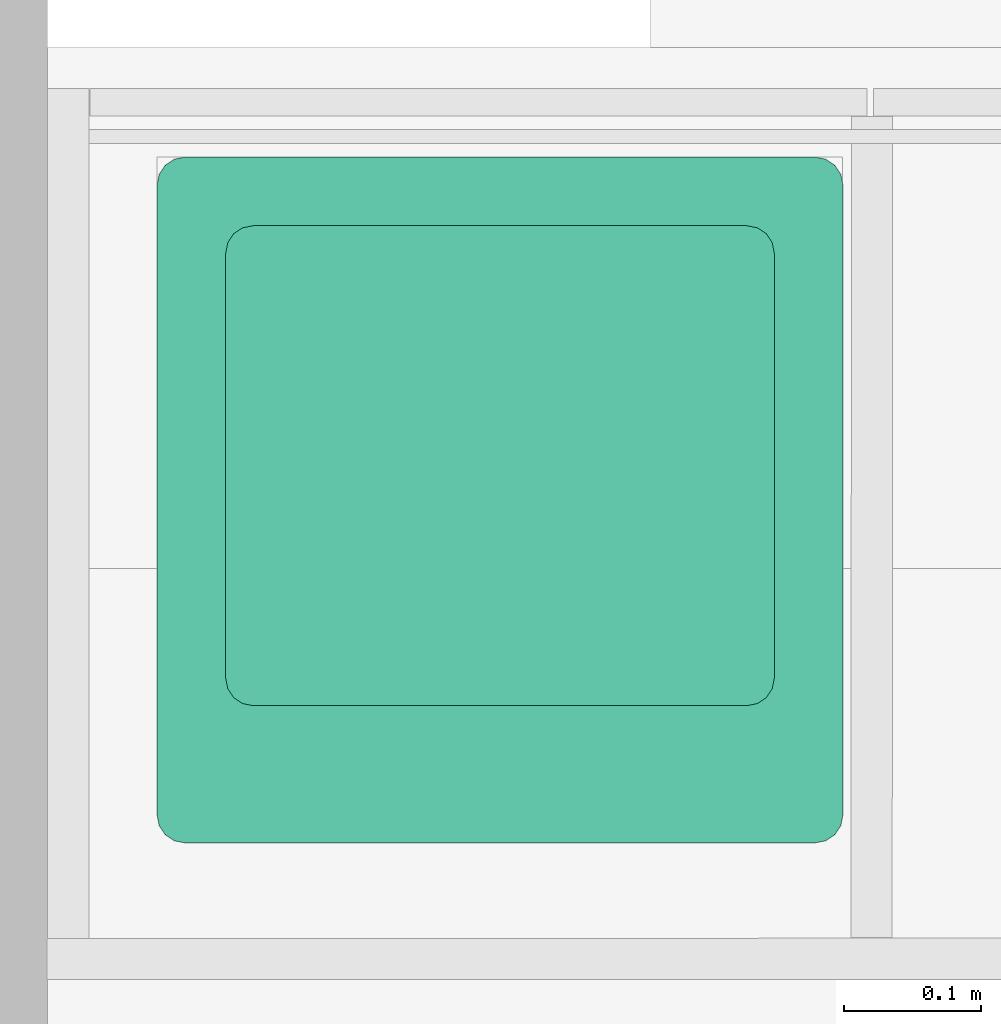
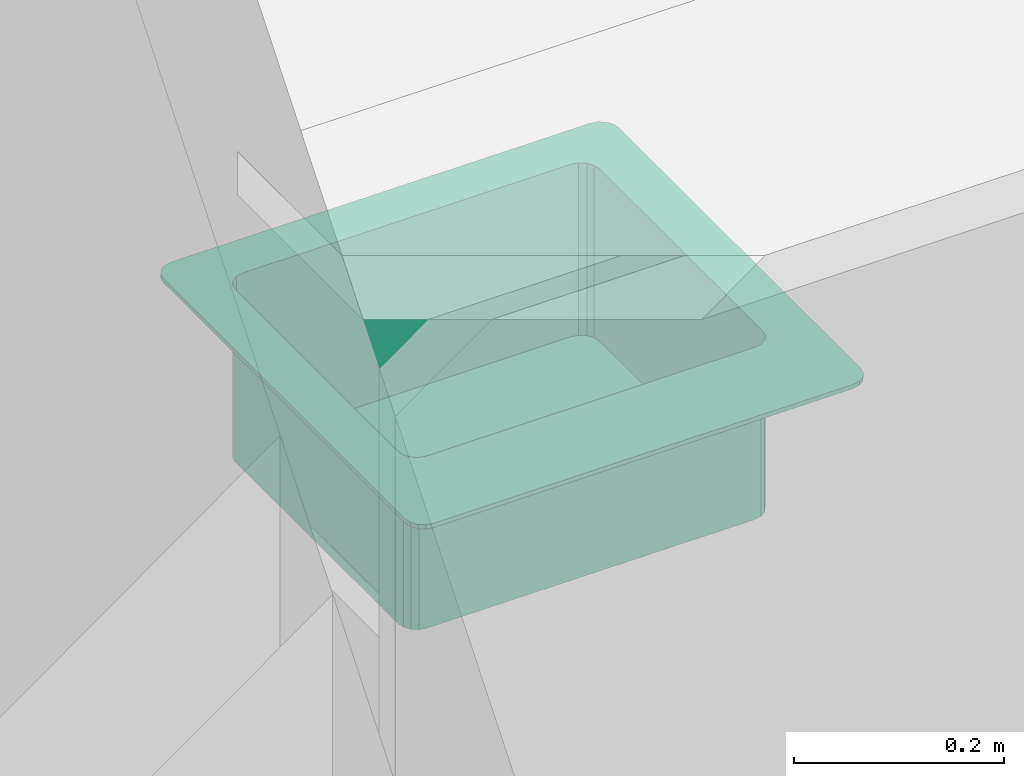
# One storey, part 33 of 34: 1 distribution element.
"""IFC2X3 building model written with IfcOpenShell, lengths in metres."""

from ifc_helpers import new_model, entity, si_unit, converted_unit, derived_unit, money_unit, direction, frame, origin_with_axes, place, context, subcontext, project, spatial, open_shell, faceted_brep, surface_model, type_object, element, save


model = new_model("IFC2X3")

# Units and contexts
model_context = context("Model", 3, precision=1e-05, world=origin_with_axes(), true_north=direction((0.0, 1.0)))
body_context = subcontext(model_context, "Body", "Model", "MODEL_VIEW")
ifc_project = project(units=[si_unit("LENGTHUNIT", "METRE"), si_unit("AREAUNIT", "SQUARE_METRE"), si_unit("VOLUMEUNIT", "CUBIC_METRE"), converted_unit("PLANEANGLEUNIT", "DEGREE", entity("IfcPlaneAngleMeasure", 0.0174532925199), si_unit("PLANEANGLEUNIT", "RADIAN"), dimensions=[0, 0, 0, 0, 0, 0, 0]), money_unit("CHF"), converted_unit("TIMEUNIT", "Year", entity("IfcTimeMeasure", 31556926.0), si_unit("TIMEUNIT", "SECOND"), dimensions=[0, 0, 1, 0, 0, 0, 0]), si_unit("MASSUNIT", "GRAM", prefix="KILO"), si_unit("THERMODYNAMICTEMPERATUREUNIT", "DEGREE_CELSIUS"), si_unit("LUMINOUSINTENSITYUNIT", "LUMEN"), si_unit("ENERGYUNIT", "JOULE", prefix="MEGA"), derived_unit("THERMALCONDUCTANCEUNIT", [(si_unit("POWERUNIT", "WATT"), 1), (si_unit("LENGTHUNIT", "METRE"), -1), (si_unit("THERMODYNAMICTEMPERATUREUNIT", "KELVIN"), -1)]), derived_unit("SPECIFICHEATCAPACITYUNIT", [(si_unit("ENERGYUNIT", "JOULE"), 1), (si_unit("MASSUNIT", "GRAM", prefix="KILO"), -1), (si_unit("THERMODYNAMICTEMPERATUREUNIT", "KELVIN"), -1)]), derived_unit("MASSDENSITYUNIT", [(si_unit("MASSUNIT", "GRAM", prefix="KILO"), 1), (si_unit("VOLUMEUNIT", "CUBIC_METRE"), -1)])], contexts=[model_context])

# Site, building, storey
site_placement = place(None, origin_with_axes())
site = spatial("IfcSite", under=ifc_project, at=site_placement, Name="Site", CompositionType="ELEMENT")
building_placement = place(site_placement, origin_with_axes())
building = spatial("IfcBuilding", under=site, at=building_placement, Name="Bâtiment", CompositionType="ELEMENT")
storey_placement = place(building_placement, origin_with_axes())
storey = spatial("IfcBuildingStorey", under=building, at=storey_placement, Name="RDC", CompositionType="ELEMENT", Elevation=-5.32907e-15)

# Distribution element
distribution_element_type = type_object("IfcDistributionElementType", Name="Evier à double bacs 25")
distribution_element_placement = place(storey_placement, frame((1675.0708958, 185.420009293, 0.37), z_axis=(0.0, 0.0, 1.0), x_axis=(-1.0, 0.0, 0.0)))
element("IfcDistributionElement", 1, at=distribution_element_placement, inside=storey, type_object=distribution_element_type, Name="Protection-003", context=body_context, shape_type="SurfaceModel", body=[
    surface_model("IfcShellBasedSurfaceModel", [(0.25, 0.279, 0.7), (0.244564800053, 0.279715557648, 0.7), (0.244564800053, 0.279715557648, 0.68), (0.25, 0.279, 0.68), (0.2395, 0.281813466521, 0.7), (0.2395, 0.281813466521, 0.68), (0.255435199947, 0.279715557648, 0.7), (0.255435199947, 0.279715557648, 0.68), (0.235150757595, 0.285150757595, 0.7), (0.235150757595, 0.285150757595, 0.68), (0.2605, 0.281813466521, 0.7), (0.2605, 0.281813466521, 0.68), (0.231813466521, 0.2895, 0.7), (0.231813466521, 0.2895, 0.68), (0.264849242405, 0.285150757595, 0.7), (0.264849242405, 0.285150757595, 0.68), (0.229715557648, 0.294564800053, 0.7), (0.229715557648, 0.294564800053, 0.68), (0.268186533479, 0.2895, 0.7), (0.268186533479, 0.2895, 0.68), (0.229, 0.3, 0.7), (0.229, 0.3, 0.68), (0.270284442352, 0.294564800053, 0.7), (0.270284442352, 0.294564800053, 0.68), (0.229715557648, 0.305435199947, 0.7), (0.229715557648, 0.305435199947, 0.68), (0.271, 0.3, 0.7), (0.271, 0.3, 0.68), (0.231813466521, 0.3105, 0.7), (0.231813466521, 0.3105, 0.68), (0.270284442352, 0.305435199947, 0.7), (0.270284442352, 0.305435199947, 0.68), (0.235150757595, 0.314849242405, 0.7), (0.235150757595, 0.314849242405, 0.68), (0.268186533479, 0.3105, 0.7), (0.268186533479, 0.3105, 0.68), (0.2395, 0.318186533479, 0.7), (0.2395, 0.318186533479, 0.68), (0.264849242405, 0.314849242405, 0.7), (0.264849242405, 0.314849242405, 0.68), (0.244564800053, 0.320284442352, 0.7), (0.244564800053, 0.320284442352, 0.68), (0.2605, 0.318186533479, 0.7), (0.2605, 0.318186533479, 0.68), (0.25, 0.321, 0.7), (0.25, 0.321, 0.68), (0.255435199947, 0.320284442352, 0.7), (0.255435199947, 0.320284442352, 0.68)], [open_shell([[[0, 1, 2, 3]], [[1, 4, 5, 2]], [[6, 0, 3, 7]], [[4, 8, 9, 5]], [[10, 6, 7, 11]], [[8, 12, 13, 9]], [[14, 10, 11, 15]], [[12, 16, 17, 13]], [[18, 14, 15, 19]], [[16, 20, 21, 17]], [[22, 18, 19, 23]], [[20, 24, 25, 21]], [[26, 22, 23, 27]], [[24, 28, 29, 25]], [[30, 26, 27, 31]], [[28, 32, 33, 29]], [[34, 30, 31, 35]], [[32, 36, 37, 33]], [[38, 34, 35, 39]], [[36, 40, 41, 37]], [[42, 38, 39, 43]], [[40, 44, 45, 41]], [[46, 42, 43, 47]], [[44, 46, 47, 45]]])]),
    surface_model("IfcShellBasedSurfaceModel", [(0.07, 0.05, 0.705), (0.43, 0.05, 0.705), (0.43, 0.05, 0.9), (0.07, 0.05, 0.9), (0.0623463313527, 0.0515224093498, 0.705), (0.0558578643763, 0.0558578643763, 0.705), (0.0515224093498, 0.0623463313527, 0.705), (0.05, 0.07, 0.705), (0.05, 0.38, 0.705), (0.0515224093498, 0.387653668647, 0.705), (0.0558578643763, 0.394142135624, 0.705), (0.0623463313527, 0.39847759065, 0.705), (0.07, 0.4, 0.705), (0.43, 0.4, 0.705), (0.437653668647, 0.39847759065, 0.705), (0.444142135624, 0.394142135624, 0.705), (0.44847759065, 0.387653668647, 0.705), (0.45, 0.38, 0.705), (0.45, 0.07, 0.705), (0.44847759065, 0.0623463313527, 0.705), (0.444142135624, 0.0558578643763, 0.705), (0.437653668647, 0.0515224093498, 0.705), (0.437653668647, 0.0515224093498, 0.9), (0.0623463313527, 0.0515224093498, 0.9), (0.0558578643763, 0.0558578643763, 0.9), (0.0515224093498, 0.0623463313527, 0.9), (0.05, 0.07, 0.9), (0.05, 0.38, 0.9), (0.0515224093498, 0.387653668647, 0.9), (0.0558578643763, 0.394142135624, 0.9), (0.0623463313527, 0.39847759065, 0.9), (0.07, 0.4, 0.9), (0.43, 0.4, 0.9), (0.437653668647, 0.39847759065, 0.9), (0.444142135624, 0.394142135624, 0.9), (0.44847759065, 0.387653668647, 0.9), (0.45, 0.38, 0.9), (0.45, 0.07, 0.9), (0.44847759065, 0.0623463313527, 0.9), (0.444142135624, 0.0558578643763, 0.9)], [open_shell([[[0, 1, 2, 3]], [[0, 4, 5, 6, 7, 8, 9, 10, 11, 12, 13, 14, 15, 16, 17, 18, 19, 20, 21, 1]], [[1, 21, 22, 2]], [[4, 0, 3, 23]], [[5, 4, 23, 24]], [[6, 5, 24, 25]], [[7, 6, 25, 26]], [[8, 7, 26, 27]], [[9, 8, 27, 28]], [[10, 9, 28, 29]], [[11, 10, 29, 30]], [[12, 11, 30, 31]], [[13, 12, 31, 32]], [[14, 13, 32, 33]], [[15, 14, 33, 34]], [[16, 15, 34, 35]], [[17, 16, 35, 36]], [[18, 17, 36, 37]], [[19, 18, 37, 38]], [[20, 19, 38, 39]], [[21, 20, 39, 22]]])]),
    faceted_brep([(0.02, 0.0, 0.9), (0.48, 0.0, 0.9), (0.48, 0.0, 0.905), (0.02, 0.0, 0.905), (0.0123463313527, 0.00152240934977, 0.9), (0.00585786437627, 0.00585786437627, 0.9), (0.00152240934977, 0.0123463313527, 0.9), (0.0, 0.02, 0.9), (0.0, 0.48, 0.9), (0.00152240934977, 0.487653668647, 0.9), (0.00585786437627, 0.494142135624, 0.9), (0.0123463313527, 0.49847759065, 0.9), (0.02, 0.5, 0.9), (0.48, 0.5, 0.9), (0.487653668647, 0.49847759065, 0.9), (0.494142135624, 0.494142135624, 0.9), (0.49847759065, 0.487653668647, 0.9), (0.5, 0.48, 0.9), (0.5, 0.02, 0.9), (0.49847759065, 0.0123463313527, 0.9), (0.494142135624, 0.00585786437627, 0.9), (0.487653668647, 0.00152240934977, 0.9), (0.07, 0.05, 0.9), (0.43, 0.05, 0.9), (0.437653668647, 0.0515224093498, 0.9), (0.444142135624, 0.0558578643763, 0.9), (0.44847759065, 0.0623463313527, 0.9), (0.45, 0.07, 0.9), (0.45, 0.38, 0.9), (0.44847759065, 0.387653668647, 0.9), (0.444142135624, 0.394142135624, 0.9), (0.437653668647, 0.39847759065, 0.9), (0.43, 0.4, 0.9), (0.07, 0.4, 0.9), (0.0623463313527, 0.39847759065, 0.9), (0.0558578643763, 0.394142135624, 0.9), (0.0515224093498, 0.387653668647, 0.9), (0.05, 0.38, 0.9), (0.05, 0.07, 0.9), (0.0515224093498, 0.0623463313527, 0.9), (0.0558578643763, 0.0558578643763, 0.9), (0.0623463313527, 0.0515224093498, 0.9), (0.487653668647, 0.00152240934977, 0.905), (0.494142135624, 0.00585786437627, 0.905), (0.49847759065, 0.0123463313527, 0.905), (0.5, 0.02, 0.905), (0.5, 0.48, 0.905), (0.49847759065, 0.487653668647, 0.905), (0.494142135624, 0.494142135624, 0.905), (0.487653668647, 0.49847759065, 0.905), (0.48, 0.5, 0.905), (0.02, 0.5, 0.905), (0.0123463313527, 0.49847759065, 0.905), (0.00585786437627, 0.494142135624, 0.905), (0.00152240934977, 0.487653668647, 0.905), (0.0, 0.48, 0.905), (0.0, 0.02, 0.905), (0.00152240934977, 0.0123463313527, 0.905), (0.00585786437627, 0.00585786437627, 0.905), (0.0123463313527, 0.00152240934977, 0.905), (0.07, 0.05, 0.905), (0.0623463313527, 0.0515224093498, 0.905), (0.0558578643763, 0.0558578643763, 0.905), (0.0515224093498, 0.0623463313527, 0.905), (0.05, 0.07, 0.905), (0.05, 0.38, 0.905), (0.0515224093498, 0.387653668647, 0.905), (0.0558578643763, 0.394142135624, 0.905), (0.0623463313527, 0.39847759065, 0.905), (0.07, 0.4, 0.905), (0.43, 0.4, 0.905), (0.437653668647, 0.39847759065, 0.905), (0.444142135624, 0.394142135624, 0.905), (0.44847759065, 0.387653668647, 0.905), (0.45, 0.38, 0.905), (0.45, 0.07, 0.905), (0.44847759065, 0.0623463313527, 0.905), (0.444142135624, 0.0558578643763, 0.905), (0.437653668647, 0.0515224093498, 0.905), (0.43, 0.05, 0.905)], [[[0, 1, 2, 3]], [[0, 4, 5, 6, 7, 8, 9, 10, 11, 12, 13, 14, 15, 16, 17, 18, 19, 20, 21, 1], [22, 23, 24, 25, 26, 27, 28, 29, 30, 31, 32, 33, 34, 35, 36, 37, 38, 39, 40, 41]], [[1, 21, 42, 2]], [[3, 2, 42, 43, 44, 45, 46, 47, 48, 49, 50, 51, 52, 53, 54, 55, 56, 57, 58, 59], [60, 61, 62, 63, 64, 65, 66, 67, 68, 69, 70, 71, 72, 73, 74, 75, 76, 77, 78, 79]], [[4, 0, 3, 59]], [[5, 4, 59, 58]], [[6, 5, 58, 57]], [[7, 6, 57, 56]], [[8, 7, 56, 55]], [[9, 8, 55, 54]], [[10, 9, 54, 53]], [[11, 10, 53, 52]], [[12, 11, 52, 51]], [[13, 12, 51, 50]], [[14, 13, 50, 49]], [[15, 14, 49, 48]], [[16, 15, 48, 47]], [[17, 16, 47, 46]], [[18, 17, 46, 45]], [[19, 18, 45, 44]], [[20, 19, 44, 43]], [[21, 20, 43, 42]], [[23, 22, 60, 79]], [[24, 23, 79, 78]], [[25, 24, 78, 77]], [[26, 25, 77, 76]], [[27, 26, 76, 75]], [[28, 27, 75, 74]], [[29, 28, 74, 73]], [[30, 29, 73, 72]], [[31, 30, 72, 71]], [[32, 31, 71, 70]], [[33, 32, 70, 69]], [[34, 33, 69, 68]], [[35, 34, 68, 67]], [[36, 35, 67, 66]], [[37, 36, 66, 65]], [[38, 37, 65, 64]], [[39, 38, 64, 63]], [[40, 39, 63, 62]], [[41, 40, 62, 61]], [[22, 41, 61, 60]]]),
])

save(model, "model.ifc")
